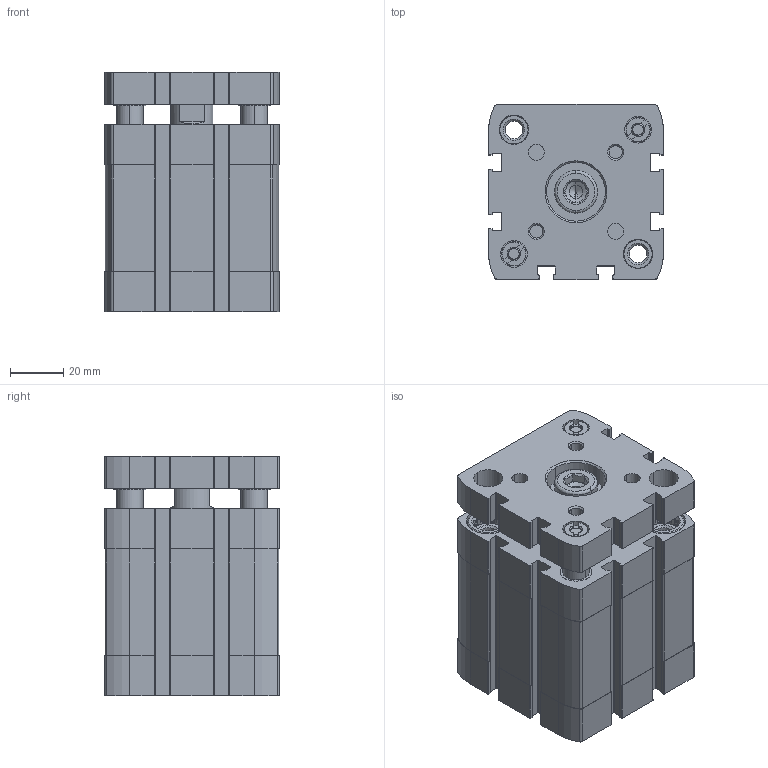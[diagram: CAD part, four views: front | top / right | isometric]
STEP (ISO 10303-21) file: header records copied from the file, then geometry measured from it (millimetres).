
FILE_DESCRIPTION (( 'STEP AP203' ), '1' );
FILE_NAME ('CCNG50-25.STEP', '2017-04-20T13:41:14', ( '' ), ( '' ), 'SwSTEP 2.0', 'SolidWorks 2016', '' );
FILE_SCHEMA (( 'CONFIG_CONTROL_DESIGN' ));
Length unit declared in the file: millimetre
Products named in the file (3): CCNG-50-25----(Z); CCNG-50-25---(KS); CCNG50-25
Assembly tree (2 placements, depth 2):
  CCNG50-25
    CCNG-50-25----(Z)
    CCNG-50-25---(KS)
Bounding box: 65.5 x 65.5 x 89.7 mm (x, y, z)
Volume: 270393.8 mm3; surface area: 78809.6 mm2
Topology: 2 solids, 4 shells, 714 faces, 1924 edges, 1261 vertices
Faces by surface type: plane 358, cylinder 278, cone 72, bspline 6
Entity records: 23131 total; most frequent: CARTESIAN_POINT 4438, DIRECTION 3960, ORIENTED_EDGE 3844, EDGE_CURVE 1922, AXIS2_PLACEMENT_3D 1459, VERTEX_POINT 1261, VECTOR 1042, LINE 1042
